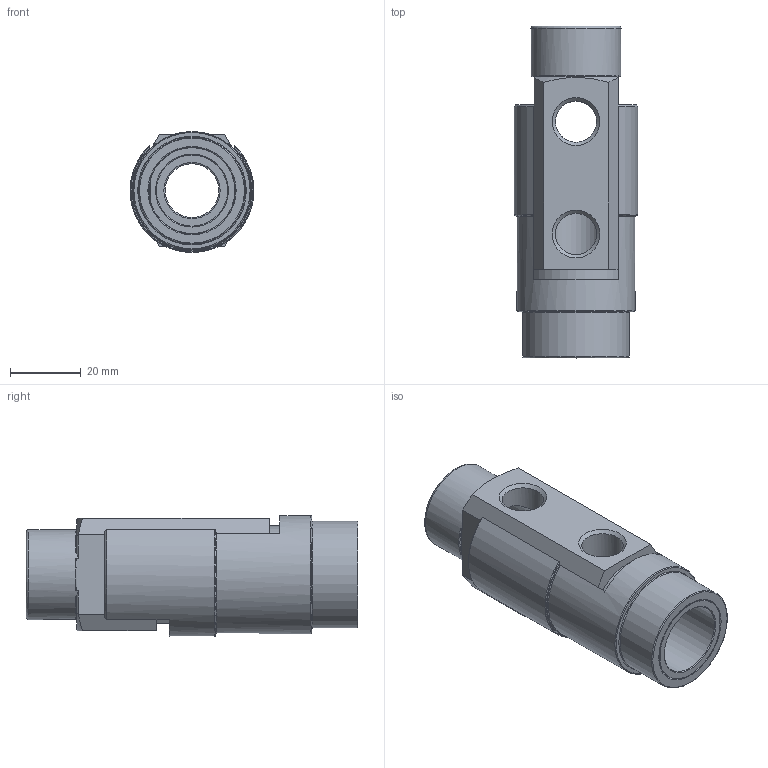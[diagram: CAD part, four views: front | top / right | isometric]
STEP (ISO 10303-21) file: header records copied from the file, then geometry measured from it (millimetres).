
FILE_DESCRIPTION(/* description */ (''),/* implementation_level */ '2;1');
FILE_NAME(/* name */ 'C:/Users/drich/Desktop/CAD FILES/SINCE 1-10-20/Rear Load Cascades/Quick Coupler Type/Head Only/SC121H-4-RL v3.step',/* time_stamp */ '2020-01-12T14:45:43-06:00',/* author */ (''),/* organization */ (''),/* preprocessor_version */ 'ST-DEVELOPER v18',/* originating_system */ 'Autodesk Translation Framework v8.12.0.6',/* authorisation */ '');
FILE_SCHEMA (('AUTOMOTIVE_DESIGN { 1 0 10303 214 3 1 1 }'));
Length unit declared in the file: inch
Products named in the file (3): SC121H-4-RL; SC121H-4-RL HEAD; SC121H-4 Sleeve
Assembly tree (2 placements, depth 3):
  SC121H-4-RL
    SC121H-4-RL HEAD
      SC121H-4 Sleeve
Bounding box: 34.92 x 93.65 x 34.12 mm (x, y, z)
Volume: 45658.5 mm3; surface area: 26355.1 mm2
Topology: 2 solids, 2 shells, 77 faces, 229 edges, 157 vertices
Faces by surface type: plane 37, cylinder 18, torus 11, cone 11
Full cylindrical faces by diameter (mm): 11.668 x3, 15.173 x1, 15.875 x1, 18.901 x1, 20.066 x1, 24.384 x1, 25.4 x1, 27.432 x1, 30.15 x1, 33.325 x1
Entity records: 2926 total; most frequent: CARTESIAN_POINT 729, ORIENTED_EDGE 458, DIRECTION 457, EDGE_CURVE 229, AXIS2_PLACEMENT_3D 181, VERTEX_POINT 157, LINE 95, VECTOR 95
